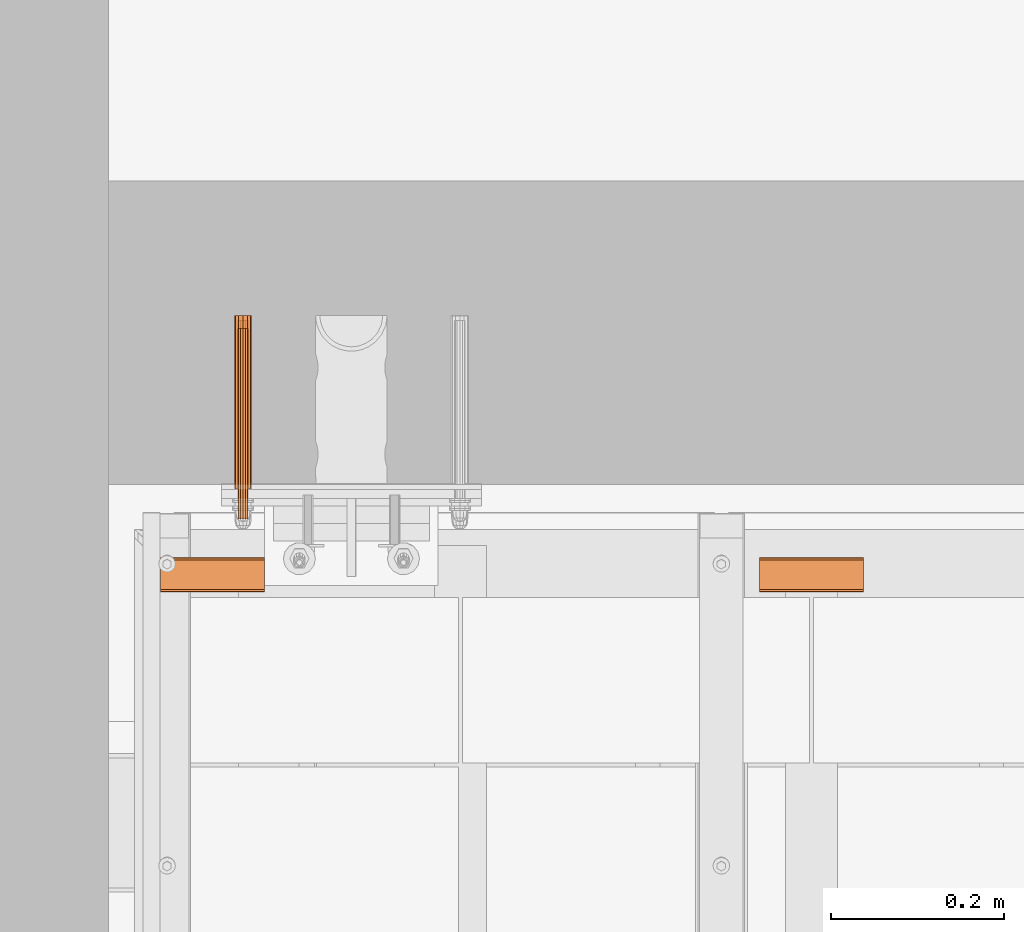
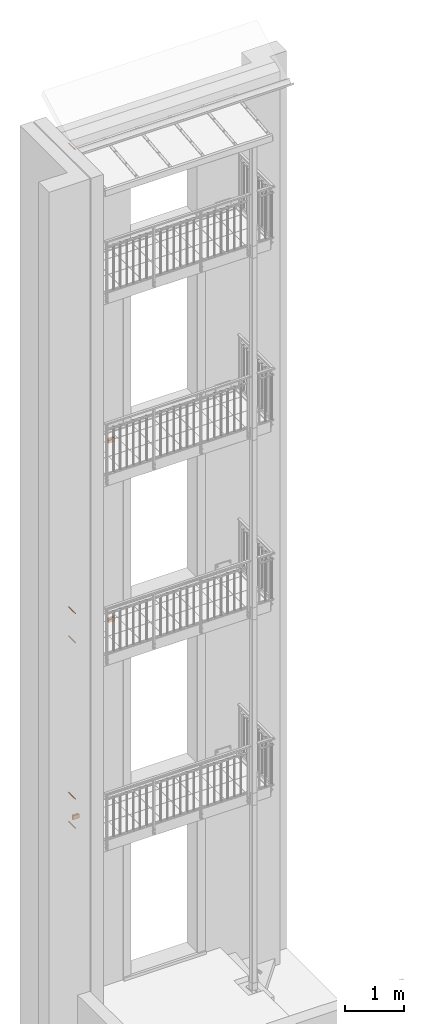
# One storey, part 94 of 162: 12 proxies.
"""IFC2X3 building model written with IfcOpenShell, lengths in millimetres."""

from ifc_helpers import new_model, entity, si_unit, converted_unit, origin_with_axes, place, context, project, spatial, faceted_brep, material, element, save


model = new_model("IFC2X3")

# Units and contexts
model_context = context("Model", 3, precision=1e-09, world=origin_with_axes())
ifc_project = project(units=[si_unit("LENGTHUNIT", "METRE", prefix="MILLI"), si_unit("AREAUNIT", "SQUARE_METRE"), si_unit("VOLUMEUNIT", "CUBIC_METRE"), converted_unit("PLANEANGLEUNIT", "DEGREE", entity("IfcPlaneAngleMeasure", 0.01745329), si_unit("PLANEANGLEUNIT", "RADIAN"), dimensions=[0, 0, 0, 0, 0, 0, 0])], contexts=[model_context])

# Site, building, storey
site_placement = place(None, origin_with_axes())
site = spatial("IfcSite", under=ifc_project, at=site_placement, Name="Hermannstra?e 1a, 60318 Frankfurt", CompositionType="ELEMENT")
building_placement = place(site_placement, origin_with_axes())
building = spatial("IfcBuilding", under=site, at=building_placement, Name="Struktur 1", CompositionType="ELEMENT")
storey_placement = place(building_placement, origin_with_axes())
storey = spatial("IfcBuildingStorey", under=building, at=storey_placement, Name="Default Storey", CompositionType="ELEMENT", Elevation=0.0)

# Proxies
ifc_material_1 = material(Name="Alu")
proxy_1_placement = place(None, origin_with_axes())
element("IfcBuildingElementProxy", 1, at=proxy_1_placement, inside=storey, material=ifc_material_1, ObjectType="-", context=model_context, shape_type="Brep", body=[
    faceted_brep([(3393.55936482, 2612.413221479, 7558.0), (3393.55936482, 2614.609373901, 7555.803847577), (3393.55936482, 2617.609373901, 7555.0), (3393.55936482, 2645.609373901, 7555.0), (3393.55936482, 2648.609373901, 7555.803847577), (3393.55936482, 2650.805526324, 7558.0), (3393.55936482, 2651.609373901, 7561.0), (3393.55936482, 2651.609373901, 7639.0), (3393.55936482, 2650.805526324, 7642.0), (3393.55936482, 2648.609373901, 7644.196152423), (3393.55936482, 2645.609373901, 7645.0), (3393.55936482, 2617.609373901, 7645.0), (3393.55936482, 2614.609373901, 7644.196152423), (3393.55936482, 2612.413221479, 7642.0), (3393.55936482, 2611.609373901, 7639.0), (3393.55936482, 2611.609373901, 7561.0), (3393.55936482, 2614.609373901, 7561.0), (3393.55936482, 2614.609373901, 7639.0), (3393.55936482, 2615.01129769, 7640.5), (3393.55936482, 2616.109373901, 7641.598076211), (3393.55936482, 2617.609373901, 7642.0), (3393.55936482, 2645.609373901, 7642.0), (3393.55936482, 2647.109373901, 7641.598076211), (3393.55936482, 2648.207450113, 7640.5), (3393.55936482, 2648.609373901, 7639.0), (3393.55936482, 2648.609373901, 7561.0), (3393.55936482, 2648.207450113, 7559.5), (3393.55936482, 2647.109373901, 7558.401923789), (3393.55936482, 2645.609373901, 7558.0), (3393.55936482, 2617.609373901, 7558.0), (3393.55936482, 2616.109373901, 7558.401923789), (3393.55936482, 2615.01129769, 7559.5), (3273.55936482, 2614.609373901, 7561.0), (3273.55936482, 2615.01129769, 7559.5), (3273.55936482, 2611.609373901, 7561.0), (3273.55936482, 2612.413221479, 7558.0), (3273.55936482, 2611.609373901, 7639.0), (3273.55936482, 2612.413221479, 7642.0), (3273.55936482, 2614.609373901, 7644.196152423), (3273.55936482, 2617.609373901, 7645.0), (3273.55936482, 2645.609373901, 7645.0), (3273.55936482, 2648.609373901, 7644.196152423), (3273.55936482, 2650.805526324, 7642.0), (3273.55936482, 2651.609373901, 7639.0), (3273.55936482, 2651.609373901, 7561.0), (3273.55936482, 2650.805526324, 7558.0), (3273.55936482, 2648.609373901, 7555.803847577), (3273.55936482, 2645.609373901, 7555.0), (3273.55936482, 2617.609373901, 7555.0), (3273.55936482, 2614.609373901, 7555.803847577), (3273.55936482, 2614.609373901, 7639.0), (3273.55936482, 2616.109373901, 7558.401923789), (3273.55936482, 2617.609373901, 7558.0), (3273.55936482, 2645.609373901, 7558.0), (3273.55936482, 2647.109373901, 7558.401923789), (3273.55936482, 2648.207450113, 7559.5), (3273.55936482, 2648.609373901, 7561.0), (3273.55936482, 2648.609373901, 7639.0), (3273.55936482, 2648.207450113, 7640.5), (3273.55936482, 2647.109373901, 7641.598076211), (3273.55936482, 2645.609373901, 7642.0), (3273.55936482, 2617.609373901, 7642.0), (3273.55936482, 2616.109373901, 7641.598076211), (3273.55936482, 2615.01129769, 7640.5)], [[[0, 1, 2, 3, 4, 5, 6, 7, 8, 9, 10, 11, 12, 13, 14, 15], [16, 17, 18, 19, 20, 21, 22, 23, 24, 25, 26, 27, 28, 29, 30, 31]], [[32, 16, 31, 33]], [[15, 34, 35, 0]], [[36, 37, 38, 39, 40, 41, 42, 43, 44, 45, 46, 47, 48, 49, 35, 34], [50, 32, 33, 51, 52, 53, 54, 55, 56, 57, 58, 59, 60, 61, 62, 63]], [[17, 16, 32, 50]], [[36, 34, 15, 14]], [[36, 14, 13, 37]], [[33, 31, 30, 51]], [[0, 35, 49, 1]], [[17, 50, 63, 18]], [[37, 13, 12, 38]], [[51, 30, 29, 52]], [[1, 49, 48, 2]], [[18, 63, 62, 19]], [[38, 12, 11, 39]], [[53, 52, 29, 28]], [[3, 2, 48, 47]], [[19, 62, 61, 20]], [[40, 39, 11, 10]], [[21, 20, 61, 60]], [[53, 28, 27, 54]], [[3, 47, 46, 4]], [[40, 10, 9, 41]], [[21, 60, 59, 22]], [[54, 27, 26, 55]], [[4, 46, 45, 5]], [[44, 6, 5, 45]], [[41, 9, 8, 42]], [[22, 59, 58, 23]], [[55, 26, 25, 56]], [[7, 6, 44, 43]], [[57, 24, 23, 58]], [[25, 24, 57, 56]], [[42, 8, 7, 43]]]),
])
proxy_2_placement = place(None, origin_with_axes())
element("IfcBuildingElementProxy", 2, at=proxy_2_placement, inside=storey, material=ifc_material_1, ObjectType="-", context=model_context, shape_type="Brep", body=[
    faceted_brep([(3393.55936482, 2612.413221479, 11257.999), (3393.55936482, 2614.609373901, 11255.802847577), (3393.55936482, 2617.609373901, 11254.999), (3393.55936482, 2645.609373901, 11254.999), (3393.55936482, 2648.609373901, 11255.802847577), (3393.55936482, 2650.805526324, 11257.999), (3393.55936482, 2651.609373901, 11260.999), (3393.55936482, 2651.609373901, 11338.999), (3393.55936482, 2650.805526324, 11341.999), (3393.55936482, 2648.609373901, 11344.195152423), (3393.55936482, 2645.609373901, 11344.999), (3393.55936482, 2617.609373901, 11344.999), (3393.55936482, 2614.609373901, 11344.195152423), (3393.55936482, 2612.413221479, 11341.999), (3393.55936482, 2611.609373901, 11338.999), (3393.55936482, 2611.609373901, 11260.999), (3393.55936482, 2614.609373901, 11260.999), (3393.55936482, 2614.609373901, 11338.999), (3393.55936482, 2615.01129769, 11340.499), (3393.55936482, 2616.109373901, 11341.597076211), (3393.55936482, 2617.609373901, 11341.999), (3393.55936482, 2645.609373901, 11341.999), (3393.55936482, 2647.109373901, 11341.597076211), (3393.55936482, 2648.207450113, 11340.499), (3393.55936482, 2648.609373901, 11338.999), (3393.55936482, 2648.609373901, 11260.999), (3393.55936482, 2648.207450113, 11259.499), (3393.55936482, 2647.109373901, 11258.400923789), (3393.55936482, 2645.609373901, 11257.999), (3393.55936482, 2617.609373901, 11257.999), (3393.55936482, 2616.109373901, 11258.400923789), (3393.55936482, 2615.01129769, 11259.499), (3273.55936482, 2614.609373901, 11260.999), (3273.55936482, 2615.01129769, 11259.499), (3273.55936482, 2611.609373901, 11260.999), (3273.55936482, 2612.413221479, 11257.999), (3273.55936482, 2611.609373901, 11338.999), (3273.55936482, 2612.413221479, 11341.999), (3273.55936482, 2614.609373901, 11344.195152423), (3273.55936482, 2617.609373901, 11344.999), (3273.55936482, 2645.609373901, 11344.999), (3273.55936482, 2648.609373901, 11344.195152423), (3273.55936482, 2650.805526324, 11341.999), (3273.55936482, 2651.609373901, 11338.999), (3273.55936482, 2651.609373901, 11260.999), (3273.55936482, 2650.805526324, 11257.999), (3273.55936482, 2648.609373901, 11255.802847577), (3273.55936482, 2645.609373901, 11254.999), (3273.55936482, 2617.609373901, 11254.999), (3273.55936482, 2614.609373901, 11255.802847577), (3273.55936482, 2614.609373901, 11338.999), (3273.55936482, 2616.109373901, 11258.400923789), (3273.55936482, 2617.609373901, 11257.999), (3273.55936482, 2645.609373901, 11257.999), (3273.55936482, 2647.109373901, 11258.400923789), (3273.55936482, 2648.207450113, 11259.499), (3273.55936482, 2648.609373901, 11260.999), (3273.55936482, 2648.609373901, 11338.999), (3273.55936482, 2648.207450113, 11340.499), (3273.55936482, 2647.109373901, 11341.597076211), (3273.55936482, 2645.609373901, 11341.999), (3273.55936482, 2617.609373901, 11341.999), (3273.55936482, 2616.109373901, 11341.597076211), (3273.55936482, 2615.01129769, 11340.499)], [[[0, 1, 2, 3, 4, 5, 6, 7, 8, 9, 10, 11, 12, 13, 14, 15], [16, 17, 18, 19, 20, 21, 22, 23, 24, 25, 26, 27, 28, 29, 30, 31]], [[32, 16, 31, 33]], [[15, 34, 35, 0]], [[36, 37, 38, 39, 40, 41, 42, 43, 44, 45, 46, 47, 48, 49, 35, 34], [50, 32, 33, 51, 52, 53, 54, 55, 56, 57, 58, 59, 60, 61, 62, 63]], [[17, 16, 32, 50]], [[36, 34, 15, 14]], [[36, 14, 13, 37]], [[33, 31, 30, 51]], [[0, 35, 49, 1]], [[17, 50, 63, 18]], [[37, 13, 12, 38]], [[51, 30, 29, 52]], [[1, 49, 48, 2]], [[18, 63, 62, 19]], [[38, 12, 11, 39]], [[53, 52, 29, 28]], [[3, 2, 48, 47]], [[19, 62, 61, 20]], [[40, 39, 11, 10]], [[21, 20, 61, 60]], [[53, 28, 27, 54]], [[3, 47, 46, 4]], [[40, 10, 9, 41]], [[21, 60, 59, 22]], [[54, 27, 26, 55]], [[4, 46, 45, 5]], [[44, 6, 5, 45]], [[41, 9, 8, 42]], [[22, 59, 58, 23]], [[55, 26, 25, 56]], [[7, 6, 44, 43]], [[57, 24, 23, 58]], [[25, 24, 57, 56]], [[42, 8, 7, 43]]]),
])
ifc_material_2 = material(Name="A4")
proxy_3_placement = place(None, origin_with_axes())
element("IfcBuildingElementProxy", 3, at=proxy_3_placement, inside=storey, material=ifc_material_2, ObjectType="-", context=model_context, shape_type="Brep", body=[
    faceted_brep([(2678.308657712, 2915.608666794, 7899.0), (2678.308657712, 2695.608666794, 7899.0), (2675.308657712, 2695.608666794, 7899.803847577), (2675.308657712, 2915.608666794, 7899.803847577), (2681.308657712, 2915.608666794, 7899.803847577), (2681.308657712, 2695.608666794, 7899.803847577), (2683.504810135, 2695.608666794, 7908.0), (2681.308657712, 2695.608666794, 7910.196152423), (2678.308657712, 2695.608666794, 7911.0), (2675.308657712, 2695.608666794, 7910.196152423), (2673.112505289, 2695.608666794, 7908.0), (2672.308657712, 2695.608666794, 7905.0), (2673.112505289, 2695.608666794, 7902.0), (2683.504810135, 2695.608666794, 7902.0), (2684.308657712, 2695.608666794, 7905.0), (2673.112505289, 2915.608666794, 7908.0), (2675.308657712, 2915.608666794, 7910.196152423), (2678.308657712, 2915.608666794, 7911.0), (2681.308657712, 2915.608666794, 7910.196152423), (2683.504810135, 2915.608666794, 7908.0), (2684.308657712, 2915.608666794, 7905.0), (2683.504810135, 2915.608666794, 7902.0), (2673.112505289, 2915.608666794, 7902.0), (2672.308657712, 2915.608666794, 7905.0)], [[[0, 1, 2, 3]], [[1, 0, 4, 5]], [[6, 7, 8, 9, 10, 11, 12, 2, 1, 5, 13, 14]], [[15, 16, 17, 18, 19, 20, 21, 4, 0, 3, 22, 23]], [[3, 2, 12, 22]], [[5, 4, 21, 13]], [[11, 23, 22, 12]], [[10, 15, 23, 11]], [[13, 21, 20, 14]], [[16, 9, 8, 17]], [[15, 10, 9, 16]], [[17, 8, 7, 18]], [[14, 20, 19, 6]], [[18, 7, 6, 19]]]),
])
ifc_material_3 = material(Name="Kunststoff")
proxy_4_placement = place(None, origin_with_axes())
element("IfcBuildingElementProxy", 4, at=proxy_4_placement, inside=storey, material=ifc_material_3, ObjectType="-", context=model_context, shape_type="Brep", body=[
    faceted_brep([(2669.648403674, 2930.608666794, 7910.0), (2673.308657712, 2930.608666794, 7913.660254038), (2678.308657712, 2930.608666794, 7915.0), (2683.308657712, 2930.608666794, 7913.660254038), (2686.96891175, 2930.608666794, 7910.0), (2688.308657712, 2930.608666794, 7905.0), (2686.96891175, 2930.608666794, 7900.0), (2683.308657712, 2930.608666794, 7896.339745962), (2678.308657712, 2930.608666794, 7895.0), (2673.308657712, 2930.608666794, 7896.339745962), (2669.648403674, 2930.608666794, 7900.0), (2668.308657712, 2930.608666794, 7905.0), (2678.308657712, 2730.608666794, 7895.0), (2673.308657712, 2730.608666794, 7896.339745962), (2683.308657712, 2730.608666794, 7896.339745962), (2686.96891175, 2730.608666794, 7900.0), (2686.96891175, 2730.608666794, 7910.0), (2683.308657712, 2730.608666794, 7913.660254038), (2688.308657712, 2730.608666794, 7905.0), (2678.308657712, 2730.608666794, 7915.0), (2673.308657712, 2730.608666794, 7913.660254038), (2669.648403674, 2730.608666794, 7910.0), (2668.308657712, 2730.608666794, 7905.0), (2669.648403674, 2730.608666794, 7900.0), (2682.558657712, 2730.608666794, 7912.361215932), (2685.669873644, 2730.608666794, 7909.25), (2686.808657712, 2730.608666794, 7905.0), (2685.669873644, 2730.608666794, 7900.75), (2682.558657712, 2730.608666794, 7897.638784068), (2678.308657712, 2730.608666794, 7896.5), (2674.058657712, 2730.608666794, 7897.638784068), (2670.94744178, 2730.608666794, 7900.75), (2669.808657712, 2730.608666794, 7905.0), (2670.94744178, 2730.608666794, 7909.25), (2674.058657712, 2730.608666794, 7912.361215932), (2678.308657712, 2730.608666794, 7913.5), (2682.558657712, 2928.608666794, 7912.361215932), (2678.308657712, 2928.608666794, 7913.5), (2685.669873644, 2928.608666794, 7909.25), (2678.308657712, 2928.608666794, 7896.5), (2674.058657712, 2928.608666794, 7897.638784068), (2682.558657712, 2928.608666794, 7897.638784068), (2670.94744178, 2928.608666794, 7900.75), (2685.669873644, 2928.608666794, 7900.75), (2686.808657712, 2928.608666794, 7905.0), (2674.058657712, 2928.608666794, 7912.361215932), (2670.94744178, 2928.608666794, 7909.25), (2669.808657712, 2928.608666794, 7905.0)], [[[0, 1, 2, 3, 4, 5, 6, 7, 8, 9, 10, 11]], [[8, 12, 13, 9]], [[7, 14, 12, 8]], [[6, 15, 14, 7]], [[16, 4, 3, 17]], [[5, 18, 15, 6]], [[17, 3, 2, 19]], [[18, 16, 17, 19, 20, 21, 22, 23, 13, 12, 14, 15], [24, 25, 26, 27, 28, 29, 30, 31, 32, 33, 34, 35]], [[18, 5, 4, 16]], [[9, 13, 23, 10]], [[19, 2, 1, 20]], [[36, 24, 35, 37]], [[24, 36, 38, 25]], [[29, 39, 40, 30]], [[39, 29, 28, 41]], [[42, 40, 39, 41, 43, 44, 38, 36, 37, 45, 46, 47]], [[10, 23, 22, 11]], [[20, 1, 0, 21]], [[37, 35, 34, 45]], [[27, 43, 41, 28]], [[26, 44, 43, 27]], [[25, 38, 44, 26]], [[11, 22, 21, 0]], [[30, 40, 42, 31]], [[45, 34, 33, 46]], [[31, 42, 47, 32]], [[46, 33, 32, 47]]]),
])
proxy_5_placement = place(None, origin_with_axes())
element("IfcBuildingElementProxy", 5, at=proxy_5_placement, inside=storey, material=ifc_material_3, ObjectType="-", context=model_context, shape_type="Brep", body=[
    faceted_brep([(2673.308657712, 2930.608666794, 7296.339745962), (2669.648403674, 2930.608666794, 7300.0), (2668.308657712, 2930.608666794, 7305.0), (2669.648403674, 2930.608666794, 7310.0), (2673.308657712, 2930.608666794, 7313.660254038), (2678.308657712, 2930.608666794, 7315.0), (2683.308657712, 2930.608666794, 7313.660254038), (2686.96891175, 2930.608666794, 7310.0), (2688.308657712, 2930.608666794, 7305.0), (2686.96891175, 2930.608666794, 7300.0), (2683.308657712, 2930.608666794, 7296.339745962), (2678.308657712, 2930.608666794, 7295.0), (2678.308657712, 2730.608666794, 7315.0), (2673.308657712, 2730.608666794, 7313.660254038), (2683.308657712, 2730.608666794, 7313.660254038), (2686.96891175, 2730.608666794, 7310.0), (2686.96891175, 2730.608666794, 7300.0), (2683.308657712, 2730.608666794, 7296.339745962), (2688.308657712, 2730.608666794, 7305.0), (2678.308657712, 2730.608666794, 7295.0), (2669.648403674, 2730.608666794, 7310.0), (2668.308657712, 2730.608666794, 7305.0), (2669.648403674, 2730.608666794, 7300.0), (2673.308657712, 2730.608666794, 7296.339745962), (2682.558657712, 2730.608666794, 7297.638784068), (2682.558657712, 2928.608666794, 7297.638784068), (2678.308657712, 2928.608666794, 7296.5), (2678.308657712, 2730.608666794, 7296.5), (2685.669873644, 2730.608666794, 7300.75), (2685.669873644, 2928.608666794, 7300.75), (2678.308657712, 2928.608666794, 7313.5), (2678.308657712, 2730.608666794, 7313.5), (2674.058657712, 2730.608666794, 7312.361215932), (2674.058657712, 2928.608666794, 7312.361215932), (2682.558657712, 2928.608666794, 7312.361215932), (2682.558657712, 2730.608666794, 7312.361215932), (2670.94744178, 2928.608666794, 7309.25), (2669.808657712, 2928.608666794, 7305.0), (2670.94744178, 2928.608666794, 7300.75), (2674.058657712, 2928.608666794, 7297.638784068), (2686.808657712, 2928.608666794, 7305.0), (2685.669873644, 2928.608666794, 7309.25), (2674.058657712, 2730.608666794, 7297.638784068), (2685.669873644, 2730.608666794, 7309.25), (2686.808657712, 2730.608666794, 7305.0), (2670.94744178, 2730.608666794, 7309.25), (2670.94744178, 2730.608666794, 7300.75), (2669.808657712, 2730.608666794, 7305.0)], [[[0, 1, 2, 3, 4, 5, 6, 7, 8, 9, 10, 11]], [[12, 5, 4, 13]], [[14, 6, 5, 12]], [[15, 7, 6, 14]], [[9, 16, 17, 10]], [[18, 8, 7, 15]], [[10, 17, 19, 11]], [[16, 18, 15, 14, 12, 13, 20, 21, 22, 23, 19, 17]], [[8, 18, 16, 9]], [[13, 4, 3, 20]], [[11, 19, 23, 0]], [[24, 25, 26, 27]], [[25, 24, 28, 29]], [[30, 31, 32, 33]], [[31, 30, 34, 35]], [[33, 36, 37, 38, 39, 26, 25, 29, 40, 41, 34, 30]], [[20, 3, 2, 21]], [[0, 23, 22, 1]], [[27, 26, 39, 42]], [[41, 43, 35, 34]], [[40, 44, 43, 41]], [[29, 28, 44, 40]], [[21, 2, 1, 22]], [[33, 32, 45, 36]], [[42, 39, 38, 46]], [[36, 45, 47, 37]], [[46, 38, 37, 47]]]),
])
proxy_6_placement = place(None, origin_with_axes())
element("IfcBuildingElementProxy", 6, at=proxy_6_placement, inside=storey, material=ifc_material_2, ObjectType="-", context=model_context, shape_type="Brep", body=[
    faceted_brep([(2678.308657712, 2695.608666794, 7311.0), (2678.308657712, 2915.608666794, 7311.0), (2675.308657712, 2915.608666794, 7310.196152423), (2675.308657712, 2695.608666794, 7310.196152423), (2681.308657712, 2695.608666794, 7310.196152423), (2681.308657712, 2915.608666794, 7310.196152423), (2681.308657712, 2695.608666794, 7299.803847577), (2683.504810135, 2695.608666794, 7302.0), (2684.308657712, 2695.608666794, 7305.0), (2683.504810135, 2695.608666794, 7308.0), (2673.112505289, 2695.608666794, 7308.0), (2672.308657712, 2695.608666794, 7305.0), (2673.112505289, 2695.608666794, 7302.0), (2675.308657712, 2695.608666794, 7299.803847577), (2678.308657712, 2695.608666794, 7299.0), (2675.308657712, 2915.608666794, 7299.803847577), (2673.112505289, 2915.608666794, 7302.0), (2672.308657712, 2915.608666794, 7305.0), (2673.112505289, 2915.608666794, 7308.0), (2683.504810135, 2915.608666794, 7308.0), (2684.308657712, 2915.608666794, 7305.0), (2683.504810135, 2915.608666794, 7302.0), (2681.308657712, 2915.608666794, 7299.803847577), (2678.308657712, 2915.608666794, 7299.0)], [[[0, 1, 2, 3]], [[1, 0, 4, 5]], [[6, 7, 8, 9, 4, 0, 3, 10, 11, 12, 13, 14]], [[15, 16, 17, 18, 2, 1, 5, 19, 20, 21, 22, 23]], [[3, 2, 18, 10]], [[5, 4, 9, 19]], [[17, 11, 10, 18]], [[16, 12, 11, 17]], [[19, 9, 8, 20]], [[13, 15, 23, 14]], [[12, 16, 15, 13]], [[14, 23, 22, 6]], [[20, 8, 7, 21]], [[6, 22, 21, 7]]]),
])
proxy_7_placement = place(None, origin_with_axes())
element("IfcBuildingElementProxy", 7, at=proxy_7_placement, inside=storey, material=ifc_material_2, ObjectType="-", context=model_context, shape_type="Brep", body=[
    faceted_brep([(2678.310071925, 2915.610081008, 4074.0), (2678.310071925, 2695.610081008, 4074.0), (2675.310071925, 2695.610081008, 4074.803847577), (2675.310071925, 2915.610081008, 4074.803847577), (2681.310071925, 2915.610081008, 4074.803847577), (2681.310071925, 2695.610081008, 4074.803847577), (2683.506224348, 2695.610081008, 4083.0), (2681.310071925, 2695.610081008, 4085.196152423), (2678.310071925, 2695.610081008, 4086.0), (2675.310071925, 2695.610081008, 4085.196152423), (2673.113919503, 2695.610081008, 4083.0), (2672.310071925, 2695.610081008, 4080.0), (2673.113919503, 2695.610081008, 4077.0), (2683.506224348, 2695.610081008, 4077.0), (2684.310071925, 2695.610081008, 4080.0), (2673.113919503, 2915.610081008, 4083.0), (2675.310071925, 2915.610081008, 4085.196152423), (2678.310071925, 2915.610081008, 4086.0), (2681.310071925, 2915.610081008, 4085.196152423), (2683.506224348, 2915.610081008, 4083.0), (2684.310071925, 2915.610081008, 4080.0), (2683.506224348, 2915.610081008, 4077.0), (2673.113919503, 2915.610081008, 4077.0), (2672.310071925, 2915.610081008, 4080.0)], [[[0, 1, 2, 3]], [[1, 0, 4, 5]], [[6, 7, 8, 9, 10, 11, 12, 2, 1, 5, 13, 14]], [[15, 16, 17, 18, 19, 20, 21, 4, 0, 3, 22, 23]], [[3, 2, 12, 22]], [[5, 4, 21, 13]], [[11, 23, 22, 12]], [[10, 15, 23, 11]], [[13, 21, 20, 14]], [[16, 9, 8, 17]], [[15, 10, 9, 16]], [[17, 8, 7, 18]], [[14, 20, 19, 6]], [[18, 7, 6, 19]]]),
])
proxy_8_placement = place(None, origin_with_axes())
element("IfcBuildingElementProxy", 8, at=proxy_8_placement, inside=storey, material=ifc_material_3, ObjectType="-", context=model_context, shape_type="Brep", body=[
    faceted_brep([(2669.649817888, 2930.610081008, 4085.0), (2673.310071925, 2930.610081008, 4088.660254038), (2678.310071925, 2930.610081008, 4090.0), (2683.310071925, 2930.610081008, 4088.660254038), (2686.970325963, 2930.610081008, 4085.0), (2688.310071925, 2930.610081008, 4080.0), (2686.970325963, 2930.610081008, 4075.0), (2683.310071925, 2930.610081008, 4071.339745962), (2678.310071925, 2930.610081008, 4070.0), (2673.310071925, 2930.610081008, 4071.339745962), (2669.649817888, 2930.610081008, 4075.0), (2668.310071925, 2930.610081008, 4080.0), (2678.310071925, 2730.610081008, 4070.0), (2673.310071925, 2730.610081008, 4071.339745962), (2683.310071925, 2730.610081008, 4071.339745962), (2686.970325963, 2730.610081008, 4075.0), (2686.970325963, 2730.610081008, 4085.0), (2683.310071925, 2730.610081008, 4088.660254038), (2688.310071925, 2730.610081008, 4080.0), (2678.310071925, 2730.610081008, 4090.0), (2673.310071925, 2730.610081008, 4088.660254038), (2669.649817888, 2730.610081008, 4085.0), (2668.310071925, 2730.610081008, 4080.0), (2669.649817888, 2730.610081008, 4075.0), (2682.560071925, 2730.610081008, 4087.361215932), (2685.671287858, 2730.610081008, 4084.25), (2686.810071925, 2730.610081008, 4080.0), (2685.671287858, 2730.610081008, 4075.75), (2682.560071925, 2730.610081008, 4072.638784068), (2678.310071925, 2730.610081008, 4071.5), (2674.060071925, 2730.610081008, 4072.638784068), (2670.948855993, 2730.610081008, 4075.75), (2669.810071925, 2730.610081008, 4080.0), (2670.948855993, 2730.610081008, 4084.25), (2674.060071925, 2730.610081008, 4087.361215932), (2678.310071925, 2730.610081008, 4088.5), (2682.560071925, 2928.610081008, 4087.361215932), (2678.310071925, 2928.610081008, 4088.5), (2685.671287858, 2928.610081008, 4084.25), (2678.310071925, 2928.610081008, 4071.5), (2674.060071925, 2928.610081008, 4072.638784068), (2682.560071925, 2928.610081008, 4072.638784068), (2670.948855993, 2928.610081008, 4075.75), (2685.671287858, 2928.610081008, 4075.75), (2686.810071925, 2928.610081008, 4080.0), (2674.060071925, 2928.610081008, 4087.361215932), (2670.948855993, 2928.610081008, 4084.25), (2669.810071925, 2928.610081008, 4080.0)], [[[0, 1, 2, 3, 4, 5, 6, 7, 8, 9, 10, 11]], [[8, 12, 13, 9]], [[7, 14, 12, 8]], [[6, 15, 14, 7]], [[16, 4, 3, 17]], [[5, 18, 15, 6]], [[17, 3, 2, 19]], [[18, 16, 17, 19, 20, 21, 22, 23, 13, 12, 14, 15], [24, 25, 26, 27, 28, 29, 30, 31, 32, 33, 34, 35]], [[18, 5, 4, 16]], [[9, 13, 23, 10]], [[19, 2, 1, 20]], [[36, 24, 35, 37]], [[24, 36, 38, 25]], [[29, 39, 40, 30]], [[39, 29, 28, 41]], [[42, 40, 39, 41, 43, 44, 38, 36, 37, 45, 46, 47]], [[10, 23, 22, 11]], [[20, 1, 0, 21]], [[37, 35, 34, 45]], [[27, 43, 41, 28]], [[26, 44, 43, 27]], [[25, 38, 44, 26]], [[11, 22, 21, 0]], [[30, 40, 42, 31]], [[45, 34, 33, 46]], [[31, 42, 47, 32]], [[46, 33, 32, 47]]]),
])
proxy_9_placement = place(None, origin_with_axes())
element("IfcBuildingElementProxy", 9, at=proxy_9_placement, inside=storey, material=ifc_material_3, ObjectType="-", context=model_context, shape_type="Brep", body=[
    faceted_brep([(2673.310071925, 2930.610081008, 3471.339745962), (2669.649817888, 2930.610081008, 3475.0), (2668.310071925, 2930.610081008, 3480.0), (2669.649817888, 2930.610081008, 3485.0), (2673.310071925, 2930.610081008, 3488.660254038), (2678.310071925, 2930.610081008, 3490.0), (2683.310071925, 2930.610081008, 3488.660254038), (2686.970325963, 2930.610081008, 3485.0), (2688.310071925, 2930.610081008, 3480.0), (2686.970325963, 2930.610081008, 3475.0), (2683.310071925, 2930.610081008, 3471.339745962), (2678.310071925, 2930.610081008, 3470.0), (2678.310071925, 2730.610081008, 3490.0), (2673.310071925, 2730.610081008, 3488.660254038), (2683.310071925, 2730.610081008, 3488.660254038), (2686.970325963, 2730.610081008, 3485.0), (2686.970325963, 2730.610081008, 3475.0), (2683.310071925, 2730.610081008, 3471.339745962), (2688.310071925, 2730.610081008, 3480.0), (2678.310071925, 2730.610081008, 3470.0), (2669.649817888, 2730.610081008, 3485.0), (2668.310071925, 2730.610081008, 3480.0), (2669.649817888, 2730.610081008, 3475.0), (2673.310071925, 2730.610081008, 3471.339745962), (2682.560071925, 2730.610081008, 3472.638784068), (2682.560071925, 2928.610081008, 3472.638784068), (2678.310071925, 2928.610081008, 3471.5), (2678.310071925, 2730.610081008, 3471.5), (2685.671287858, 2730.610081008, 3475.75), (2685.671287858, 2928.610081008, 3475.75), (2678.310071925, 2928.610081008, 3488.5), (2678.310071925, 2730.610081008, 3488.5), (2674.060071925, 2730.610081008, 3487.361215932), (2674.060071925, 2928.610081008, 3487.361215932), (2682.560071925, 2928.610081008, 3487.361215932), (2682.560071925, 2730.610081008, 3487.361215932), (2670.948855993, 2928.610081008, 3484.25), (2669.810071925, 2928.610081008, 3480.0), (2670.948855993, 2928.610081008, 3475.75), (2674.060071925, 2928.610081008, 3472.638784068), (2686.810071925, 2928.610081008, 3480.0), (2685.671287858, 2928.610081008, 3484.25), (2674.060071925, 2730.610081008, 3472.638784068), (2685.671287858, 2730.610081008, 3484.25), (2686.810071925, 2730.610081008, 3480.0), (2670.948855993, 2730.610081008, 3484.25), (2670.948855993, 2730.610081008, 3475.75), (2669.810071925, 2730.610081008, 3480.0)], [[[0, 1, 2, 3, 4, 5, 6, 7, 8, 9, 10, 11]], [[12, 5, 4, 13]], [[14, 6, 5, 12]], [[15, 7, 6, 14]], [[9, 16, 17, 10]], [[18, 8, 7, 15]], [[10, 17, 19, 11]], [[16, 18, 15, 14, 12, 13, 20, 21, 22, 23, 19, 17]], [[8, 18, 16, 9]], [[13, 4, 3, 20]], [[11, 19, 23, 0]], [[24, 25, 26, 27]], [[25, 24, 28, 29]], [[30, 31, 32, 33]], [[31, 30, 34, 35]], [[33, 36, 37, 38, 39, 26, 25, 29, 40, 41, 34, 30]], [[20, 3, 2, 21]], [[0, 23, 22, 1]], [[27, 26, 39, 42]], [[41, 43, 35, 34]], [[40, 44, 43, 41]], [[29, 28, 44, 40]], [[21, 2, 1, 22]], [[33, 32, 45, 36]], [[42, 39, 38, 46]], [[36, 45, 47, 37]], [[46, 38, 37, 47]]]),
])
proxy_10_placement = place(None, origin_with_axes())
element("IfcBuildingElementProxy", 10, at=proxy_10_placement, inside=storey, material=ifc_material_2, ObjectType="-", context=model_context, shape_type="Brep", body=[
    faceted_brep([(2678.310071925, 2695.610081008, 3486.0), (2678.310071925, 2915.610081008, 3486.0), (2675.310071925, 2915.610081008, 3485.196152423), (2675.310071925, 2695.610081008, 3485.196152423), (2681.310071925, 2695.610081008, 3485.196152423), (2681.310071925, 2915.610081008, 3485.196152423), (2681.310071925, 2695.610081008, 3474.803847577), (2683.506224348, 2695.610081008, 3477.0), (2684.310071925, 2695.610081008, 3480.0), (2683.506224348, 2695.610081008, 3483.0), (2673.113919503, 2695.610081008, 3483.0), (2672.310071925, 2695.610081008, 3480.0), (2673.113919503, 2695.610081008, 3477.0), (2675.310071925, 2695.610081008, 3474.803847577), (2678.310071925, 2695.610081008, 3474.0), (2675.310071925, 2915.610081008, 3474.803847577), (2673.113919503, 2915.610081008, 3477.0), (2672.310071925, 2915.610081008, 3480.0), (2673.113919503, 2915.610081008, 3483.0), (2683.506224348, 2915.610081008, 3483.0), (2684.310071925, 2915.610081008, 3480.0), (2683.506224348, 2915.610081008, 3477.0), (2681.310071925, 2915.610081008, 3474.803847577), (2678.310071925, 2915.610081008, 3474.0)], [[[0, 1, 2, 3]], [[1, 0, 4, 5]], [[6, 7, 8, 9, 4, 0, 3, 10, 11, 12, 13, 14]], [[15, 16, 17, 18, 2, 1, 5, 19, 20, 21, 22, 23]], [[3, 2, 18, 10]], [[5, 4, 9, 19]], [[17, 11, 10, 18]], [[16, 12, 11, 17]], [[19, 9, 8, 20]], [[13, 15, 23, 14]], [[12, 16, 15, 13]], [[14, 23, 22, 6]], [[20, 8, 7, 21]], [[6, 22, 21, 7]]]),
])
proxy_11_placement = place(None, origin_with_axes())
element("IfcBuildingElementProxy", 11, at=proxy_11_placement, inside=storey, material=ifc_material_1, ObjectType="-", context=model_context, shape_type="Brep", body=[
    faceted_brep([(2703.30936482, 2612.413221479, 3733.0), (2703.30936482, 2614.609373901, 3730.803847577), (2703.30936482, 2617.609373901, 3730.0), (2703.30936482, 2645.609373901, 3730.0), (2703.30936482, 2648.609373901, 3730.803847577), (2703.30936482, 2650.805526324, 3733.0), (2703.30936482, 2651.609373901, 3736.0), (2703.30936482, 2651.609373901, 3814.0), (2703.30936482, 2650.805526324, 3817.0), (2703.30936482, 2648.609373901, 3819.196152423), (2703.30936482, 2645.609373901, 3820.0), (2703.30936482, 2617.609373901, 3820.0), (2703.30936482, 2614.609373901, 3819.196152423), (2703.30936482, 2612.413221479, 3817.0), (2703.30936482, 2611.609373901, 3814.0), (2703.30936482, 2611.609373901, 3736.0), (2703.30936482, 2614.609373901, 3736.0), (2703.30936482, 2614.609373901, 3814.0), (2703.30936482, 2615.01129769, 3815.5), (2703.30936482, 2616.109373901, 3816.598076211), (2703.30936482, 2617.609373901, 3817.0), (2703.30936482, 2645.609373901, 3817.0), (2703.30936482, 2647.109373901, 3816.598076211), (2703.30936482, 2648.207450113, 3815.5), (2703.30936482, 2648.609373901, 3814.0), (2703.30936482, 2648.609373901, 3736.0), (2703.30936482, 2648.207450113, 3734.5), (2703.30936482, 2647.109373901, 3733.401923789), (2703.30936482, 2645.609373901, 3733.0), (2703.30936482, 2617.609373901, 3733.0), (2703.30936482, 2616.109373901, 3733.401923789), (2703.30936482, 2615.01129769, 3734.5), (2583.30936482, 2614.609373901, 3736.0), (2583.30936482, 2615.01129769, 3734.5), (2583.30936482, 2611.609373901, 3736.0), (2583.30936482, 2612.413221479, 3733.0), (2583.30936482, 2611.609373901, 3814.0), (2583.30936482, 2612.413221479, 3817.0), (2583.30936482, 2614.609373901, 3819.196152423), (2583.30936482, 2617.609373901, 3820.0), (2583.30936482, 2645.609373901, 3820.0), (2583.30936482, 2648.609373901, 3819.196152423), (2583.30936482, 2650.805526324, 3817.0), (2583.30936482, 2651.609373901, 3814.0), (2583.30936482, 2651.609373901, 3736.0), (2583.30936482, 2650.805526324, 3733.0), (2583.30936482, 2648.609373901, 3730.803847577), (2583.30936482, 2645.609373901, 3730.0), (2583.30936482, 2617.609373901, 3730.0), (2583.30936482, 2614.609373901, 3730.803847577), (2583.30936482, 2614.609373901, 3814.0), (2583.30936482, 2616.109373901, 3733.401923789), (2583.30936482, 2617.609373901, 3733.0), (2583.30936482, 2645.609373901, 3733.0), (2583.30936482, 2647.109373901, 3733.401923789), (2583.30936482, 2648.207450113, 3734.5), (2583.30936482, 2648.609373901, 3736.0), (2583.30936482, 2648.609373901, 3814.0), (2583.30936482, 2648.207450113, 3815.5), (2583.30936482, 2647.109373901, 3816.598076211), (2583.30936482, 2645.609373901, 3817.0), (2583.30936482, 2617.609373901, 3817.0), (2583.30936482, 2616.109373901, 3816.598076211), (2583.30936482, 2615.01129769, 3815.5)], [[[0, 1, 2, 3, 4, 5, 6, 7, 8, 9, 10, 11, 12, 13, 14, 15], [16, 17, 18, 19, 20, 21, 22, 23, 24, 25, 26, 27, 28, 29, 30, 31]], [[32, 16, 31, 33]], [[15, 34, 35, 0]], [[36, 37, 38, 39, 40, 41, 42, 43, 44, 45, 46, 47, 48, 49, 35, 34], [50, 32, 33, 51, 52, 53, 54, 55, 56, 57, 58, 59, 60, 61, 62, 63]], [[17, 16, 32, 50]], [[36, 34, 15, 14]], [[36, 14, 13, 37]], [[33, 31, 30, 51]], [[0, 35, 49, 1]], [[17, 50, 63, 18]], [[37, 13, 12, 38]], [[51, 30, 29, 52]], [[1, 49, 48, 2]], [[18, 63, 62, 19]], [[38, 12, 11, 39]], [[53, 52, 29, 28]], [[3, 2, 48, 47]], [[19, 62, 61, 20]], [[40, 39, 11, 10]], [[21, 20, 61, 60]], [[53, 28, 27, 54]], [[3, 47, 46, 4]], [[40, 10, 9, 41]], [[21, 60, 59, 22]], [[54, 27, 26, 55]], [[4, 46, 45, 5]], [[44, 6, 5, 45]], [[41, 9, 8, 42]], [[22, 59, 58, 23]], [[55, 26, 25, 56]], [[7, 6, 44, 43]], [[57, 24, 23, 58]], [[25, 24, 57, 56]], [[42, 8, 7, 43]]]),
])
proxy_12_placement = place(None, origin_with_axes())
element("IfcBuildingElementProxy", 12, at=proxy_12_placement, inside=storey, material=ifc_material_2, ObjectType="-", context=model_context, shape_type="Brep", body=[
    faceted_brep([(2678.309364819, 2924.609373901, 17460.999), (2678.309364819, 2704.609373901, 17460.999), (2675.309364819, 2704.609373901, 17461.802847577), (2675.309364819, 2924.609373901, 17461.802847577), (2681.309364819, 2924.609373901, 17461.802847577), (2681.309364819, 2704.609373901, 17461.802847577), (2683.505517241, 2704.609373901, 17469.999), (2681.309364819, 2704.609373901, 17472.195152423), (2678.309364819, 2704.609373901, 17472.999), (2675.309364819, 2704.609373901, 17472.195152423), (2673.113212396, 2704.609373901, 17469.999), (2672.309364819, 2704.609373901, 17466.999), (2673.113212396, 2704.609373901, 17463.999), (2683.505517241, 2704.609373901, 17463.999), (2684.309364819, 2704.609373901, 17466.999), (2673.113212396, 2924.609373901, 17469.999), (2675.309364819, 2924.609373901, 17472.195152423), (2678.309364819, 2924.609373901, 17472.999), (2681.309364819, 2924.609373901, 17472.195152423), (2683.505517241, 2924.609373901, 17469.999), (2684.309364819, 2924.609373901, 17466.999), (2683.505517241, 2924.609373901, 17463.999), (2673.113212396, 2924.609373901, 17463.999), (2672.309364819, 2924.609373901, 17466.999)], [[[0, 1, 2, 3]], [[1, 0, 4, 5]], [[6, 7, 8, 9, 10, 11, 12, 2, 1, 5, 13, 14]], [[15, 16, 17, 18, 19, 20, 21, 4, 0, 3, 22, 23]], [[3, 2, 12, 22]], [[5, 4, 21, 13]], [[11, 23, 22, 12]], [[10, 15, 23, 11]], [[13, 21, 20, 14]], [[16, 9, 8, 17]], [[15, 10, 9, 16]], [[17, 8, 7, 18]], [[14, 20, 19, 6]], [[18, 7, 6, 19]]]),
])

save(model, "model.ifc")
